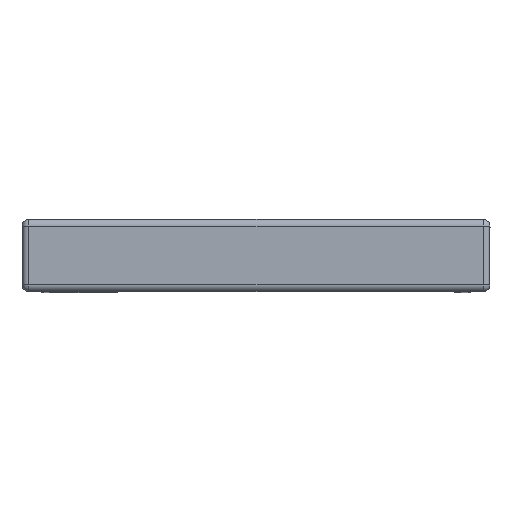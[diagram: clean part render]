
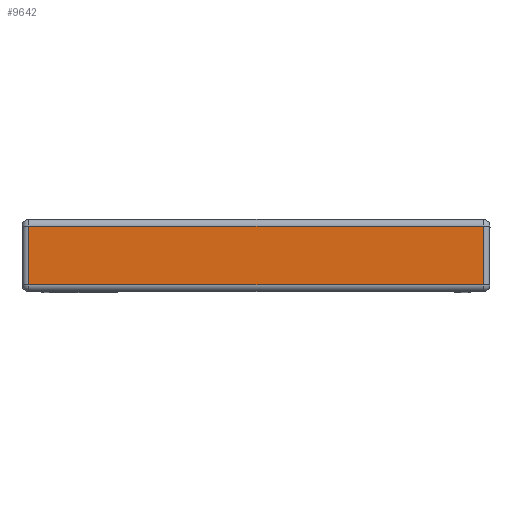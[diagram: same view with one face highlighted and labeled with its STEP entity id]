
A CAD part, top view. The second image highlights one B-rep face of the part: STEP entity #9642.
In plain terms, the highlighted planar face has unit normal (0, 0, 1).
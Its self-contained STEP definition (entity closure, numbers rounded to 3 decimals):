
#233=DIRECTION('',(1.,0.,0.));
#234=VECTOR('',#233,13.9);
#235=CARTESIAN_POINT('',(-6.95,-0.9,0.));
#236=LINE('',#235,#234);
#2472=DIRECTION('',(-1.,0.,0.));
#2473=VECTOR('',#2472,13.9);
#2474=CARTESIAN_POINT('',(6.95,0.9,0.));
#2475=LINE('',#2474,#2473);
#2557=DIRECTION('',(0.,1.,0.));
#2558=VECTOR('',#2557,1.8);
#2559=CARTESIAN_POINT('',(6.95,-0.9,0.));
#2560=LINE('',#2559,#2558);
#2565=DIRECTION('',(0.,-1.,0.));
#2566=VECTOR('',#2565,1.8);
#2567=CARTESIAN_POINT('',(-6.95,0.9,0.));
#2568=LINE('',#2567,#2566);
#5776=CARTESIAN_POINT('',(6.95,-0.9,0.));
#5777=VERTEX_POINT('',#5776);
#5778=CARTESIAN_POINT('',(-6.95,-0.9,0.));
#5779=VERTEX_POINT('',#5778);
#6770=CARTESIAN_POINT('',(-6.95,0.9,0.));
#6771=VERTEX_POINT('',#6770);
#6772=CARTESIAN_POINT('',(6.95,0.9,0.));
#6773=VERTEX_POINT('',#6772);
#9630=CARTESIAN_POINT('',(-7.15,-1.1,0.));
#9631=DIRECTION('',(0.,0.,1.));
#9632=DIRECTION('',(1.,0.,0.));
#9633=AXIS2_PLACEMENT_3D('',#9630,#9631,#9632);
#9634=PLANE('',#9633);
#9635=ORIENTED_EDGE('',*,*,#9624,.F.);
#9636=ORIENTED_EDGE('',*,*,#7173,.F.);
#9638=ORIENTED_EDGE('',*,*,#9637,.F.);
#9639=ORIENTED_EDGE('',*,*,#9501,.F.);
#9640=EDGE_LOOP('',(#9635,#9636,#9638,#9639));
#9641=FACE_OUTER_BOUND('',#9640,.F.);
#9642=ADVANCED_FACE('',(#9641),#9634,.T.);
#7173=EDGE_CURVE('',#5779,#5777,#236,.T.);
#9501=EDGE_CURVE('',#6773,#6771,#2475,.T.);
#9624=EDGE_CURVE('',#5777,#6773,#2560,.T.);
#9637=EDGE_CURVE('',#6771,#5779,#2568,.T.);
